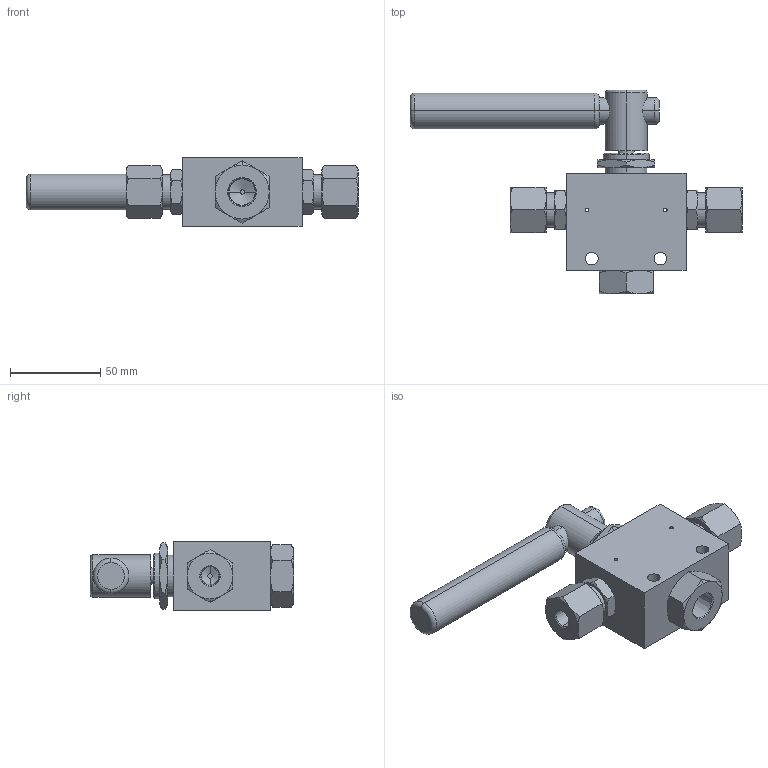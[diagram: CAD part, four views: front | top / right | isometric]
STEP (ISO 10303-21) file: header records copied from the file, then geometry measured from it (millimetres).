
FILE_DESCRIPTION (( 'STEP AP203' ), '1' );
FILE_NAME ('BVN03S02-3-180.STEP', '2022-04-07T10:03:19', ( '' ), ( '' ), 'SwSTEP 2.0', 'SolidWorks 2020', '' );
FILE_SCHEMA (( 'CONFIG_CONTROL_DESIGN' ));
Length unit declared in the file: millimetre
Products named in the file (1): BVN03S02-3-180
Bounding box: 184.33 x 113 x 38 mm (x, y, z)
Volume: 225232.8 mm3; surface area: 39805.4 mm2
Topology: 1 solids, 1 shells, 211 faces, 460 edges, 266 vertices
Faces by surface type: cone 108, plane 59, cylinder 36, torus 8
Entity records: 6431 total; most frequent: CARTESIAN_POINT 1922, DIRECTION 920, ORIENTED_EDGE 912, EDGE_CURVE 456, AXIS2_PLACEMENT_3D 400, VERTEX_POINT 266, EDGE_LOOP 238, ADVANCED_FACE 211
